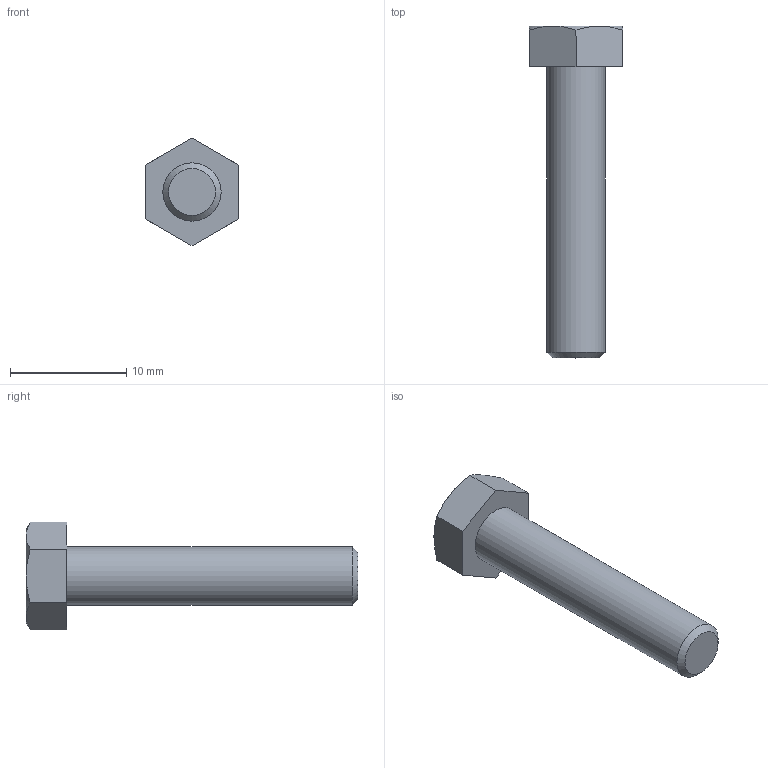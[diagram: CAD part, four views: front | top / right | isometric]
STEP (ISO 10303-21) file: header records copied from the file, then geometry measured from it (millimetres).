
FILE_DESCRIPTION(/* description */ (''),/* implementation_level */ '2;1');
FILE_NAME(/* name */ 'C:\Users\unitec\Documents\Inventor\各種小物\JIS\JIS B 1180 六角ボルト 等級C\hbc5\M5x25.stp',/* time_stamp */ '2015-02-13T14:49:09+09:00',/* author */ ('unitec'),/* organization */ (''),/* preprocessor_version */ 'ST-DEVELOPER v15.2',/* originating_system */ 'Autodesk Inventor 2014',/* authorisation */ '');
FILE_SCHEMA (('AUTOMOTIVE_DESIGN { 1 0 10303 214 3 1 1 }'));
Length unit declared in the file: millimetre
Products named in the file (1): M5x25
Bounding box: 8 x 28.5 x 9.24 mm (x, y, z)
Volume: 682.5 mm3; surface area: 593.1 mm2
Topology: 1 solids, 1 shells, 17 faces, 35 edges, 21 vertices
Faces by surface type: plane 9, cone 7, cylinder 1
Full cylindrical faces by diameter (mm): 5 x1
Entity records: 441 total; most frequent: CARTESIAN_POINT 96, ORIENTED_EDGE 66, DIRECTION 66, EDGE_CURVE 33, AXIS2_PLACEMENT_3D 27, VERTEX_POINT 21, EDGE_LOOP 20, ADVANCED_FACE 17
